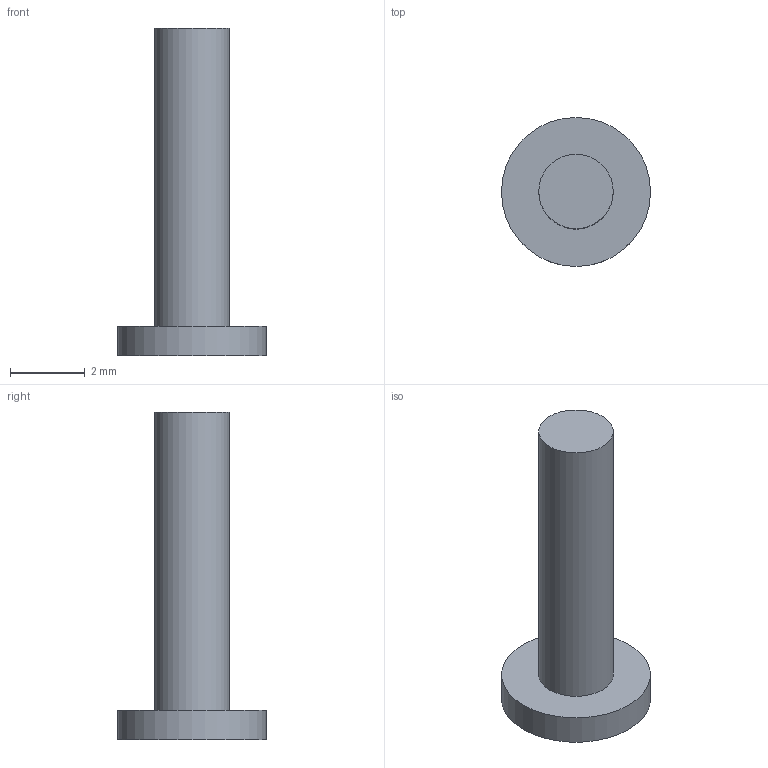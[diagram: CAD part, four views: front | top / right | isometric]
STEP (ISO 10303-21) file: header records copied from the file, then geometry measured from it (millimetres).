
FILE_DESCRIPTION(/* description */ ('STEP AP242 Edition 2','CAx-IF Rec.Pracs.---Representation and Presentation of Product Manufacturing Information (PMI)---4.0---2014-10-13','CAx-IF Rec.Pracs.---3D Tessellated Geometry---0.4---2014-09-14','2;1','CAx-IF Rec.Pracs.---User Defined Attributes---1.5---2016-08-15'),/* implementation_level */ '2;1');
FILE_NAME(/* name */ 'Assembly 1 - Part 1 (92)',/* time_stamp */ '2026-06-04T16:20:02Z',/* author */ (''),/* organization */ (''),/* preprocessor_version */ 'ST-DEVELOPER v20',/* originating_system */ 'ONSHAPE BY PTC INC, 1.215',/* authorisation */ ' ');
FILE_SCHEMA (('AP242_MANAGED_MODEL_BASED_3D_ENGINEERING_MIM_LF { 1 0 10303 442 3 1 4 }'));
Length unit declared in the file: metre
Products named in the file (1): Part 1
Bounding box: 4 x 4 x 8.8 mm (x, y, z)
Volume: 33.9 mm3; surface area: 88 mm2
Topology: 1 solids, 1 shells, 7 faces, 9 edges, 6 vertices
Faces by surface type: plane 4, cylinder 3
Full cylindrical faces by diameter (mm): 2 x2, 4 x1
Entity records: 156 total; most frequent: DIRECTION 28, CARTESIAN_POINT 20, AXIS2_PLACEMENT_3D 14, ORIENTED_EDGE 12, EDGE_LOOP 12, FACE_BOUND 12, ADVANCED_FACE 7, EDGE_CURVE 6
